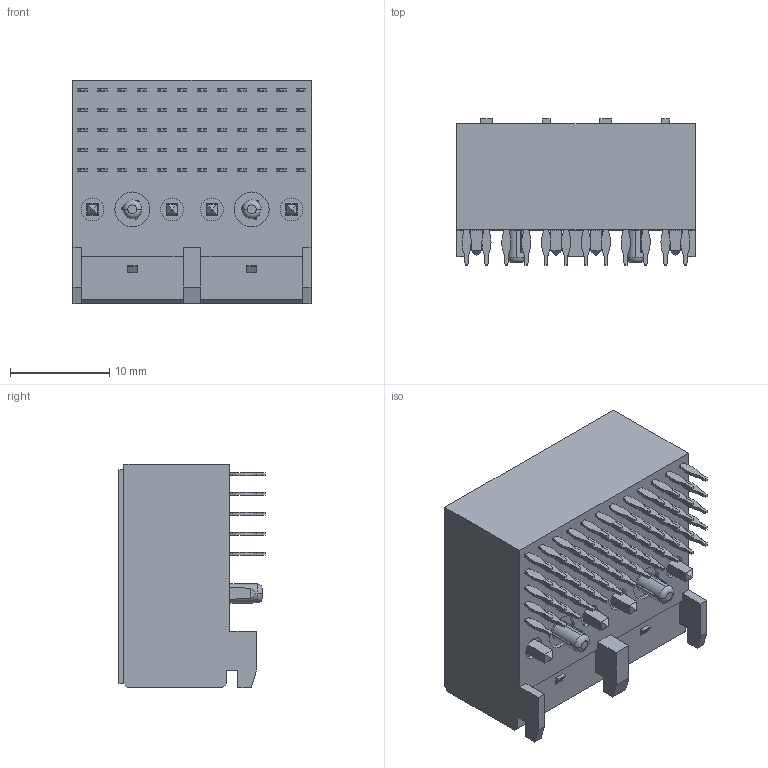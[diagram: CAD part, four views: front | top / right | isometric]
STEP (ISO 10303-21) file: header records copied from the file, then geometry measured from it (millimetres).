
FILE_DESCRIPTION (( 'STEP AP214' ), '1' );
FILE_NAME ('9111-52602C10PU.STEP', '2023-05-11T05:48:06', ( '' ), ( '' ), 'SwSTEP 2.0', 'SolidWorks 2011', '' );
FILE_SCHEMA (( 'AUTOMOTIVE_DESIGN' ));
Length unit declared in the file: millimetre
Products named in the file (1): 9111-52602C10PU
Bounding box: 23.95 x 14.68 x 22.5 mm (x, y, z)
Volume: 5640 mm3; surface area: 4051 mm2
Topology: 1 solids, 61 shells, 2650 faces, 6870 edges, 4476 vertices
Faces by surface type: plane 2116, cylinder 530, torus 4
Entity records: 108551 total; most frequent: CARTESIAN_POINT 14033, ORIENTED_EDGE 13740, DIRECTION 13292, EDGE_CURVE 6870, VECTOR 5726, LINE 5726, VERTEX_POINT 4476, AXIS2_PLACEMENT_3D 3783
